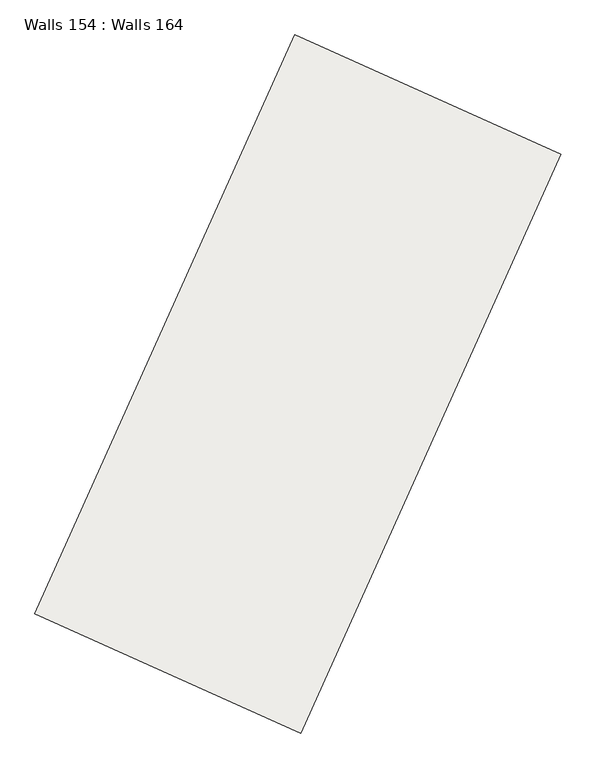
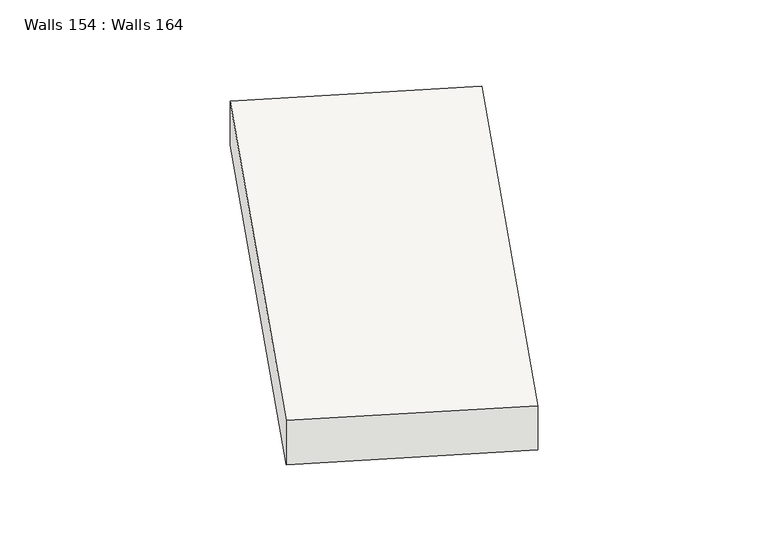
"""IFC4 building model written with IfcOpenShell, lengths in millimetres: slab geometry, Walls 154 : Walls 164."""

from ifc_helpers import new_model, si_unit, frame, origin, place, context, project, spatial, polyline, outline, extrude, source, transform, mapped, element, save


def walls_154_walls_164_4e3c764d(model_context):
    return source(origin(), model_context, "Body", "SweptSolid", [
        extrude(outline(polyline([(-425.0, 0.0), (425.0, 0.0), (315.0, -8700.0000001), (-535.0, -8700.0000001), (-425.0, 0.0)])), frame((202714.5237695, 86639.8321046, 641965.0), z_axis=(-0.9122727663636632, 0.4095832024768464, 0.0), x_axis=(0.0, 0.0, 1.0)), (0.0, 0.0, 1.0), 4000.0),
    ])


if __name__ == "__main__":
    model = new_model("IFC4")
    model_context = context("Model", 3, world=origin())
    ifc_project = project(units=[si_unit("LENGTHUNIT", "METRE", prefix="MILLI")], contexts=[model_context])
    site = spatial("IfcSite", under=ifc_project)
    building = spatial("IfcBuilding", under=site)
    placement = place(None, origin())
    walls_154_walls_164_shape = walls_154_walls_164_4e3c764d(model_context)
    element("IfcSlab", 1, ObjectType="Walls 154 : Walls 164", at=placement, inside=building, context=model_context, shape_type="MappedRepresentation", body=[
        mapped(walls_154_walls_164_shape, transform((0.0, 0.0, 0.0), x_axis=(1.0, 0.0, 0.0), y_axis=(0.0, 1.0, 0.0), z_axis=(0.0, 0.0, 1.0))),
    ])
    save(model, "model.ifc")
